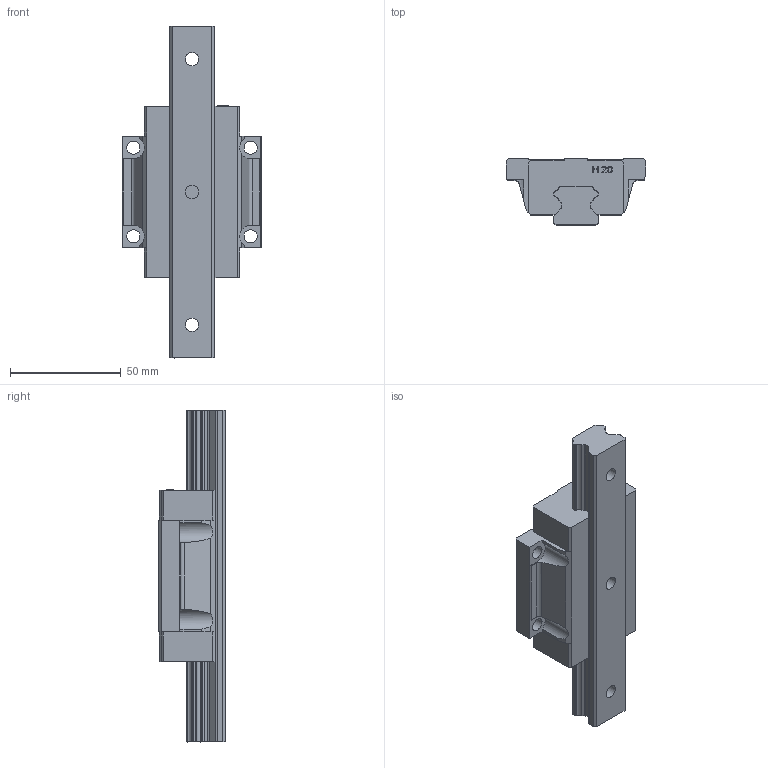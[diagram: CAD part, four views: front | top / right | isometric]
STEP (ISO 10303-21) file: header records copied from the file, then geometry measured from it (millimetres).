
FILE_DESCRIPTION(/* description */ (''),/* implementation_level */ '2;1');
FILE_NAME(/* name */ 'HGW20CC.stp',/* time_stamp */ '2021-05-18T22:51:05+08:00',/* author */ (''),/* organization */ (''),/* preprocessor_version */ 'ST-DEVELOPER v15',/* originating_system */ 'SIEMENS PLM Software NX 8.5',/* authorisation */ '');
FILE_SCHEMA (('CONFIG_CONTROL_DESIGN'));
Length unit declared in the file: millimetre
Products named in the file (1): _model2
Bounding box: 63 x 30 x 150 mm (x, y, z)
Volume: 120406.8 mm3; surface area: 30407.7 mm2
Topology: 2 solids, 2 shells, 257 faces, 735 edges, 489 vertices
Faces by surface type: plane 195, cylinder 62
Full cylindrical faces by diameter (mm): 6 x7, 9.5 x3
Entity records: 8411 total; most frequent: CARTESIAN_POINT 1511, ORIENTED_EDGE 1448, DIRECTION 1363, EDGE_CURVE 724, LINE 583, VECTOR 583, VERTEX_POINT 488, AXIS2_PLACEMENT_3D 390
